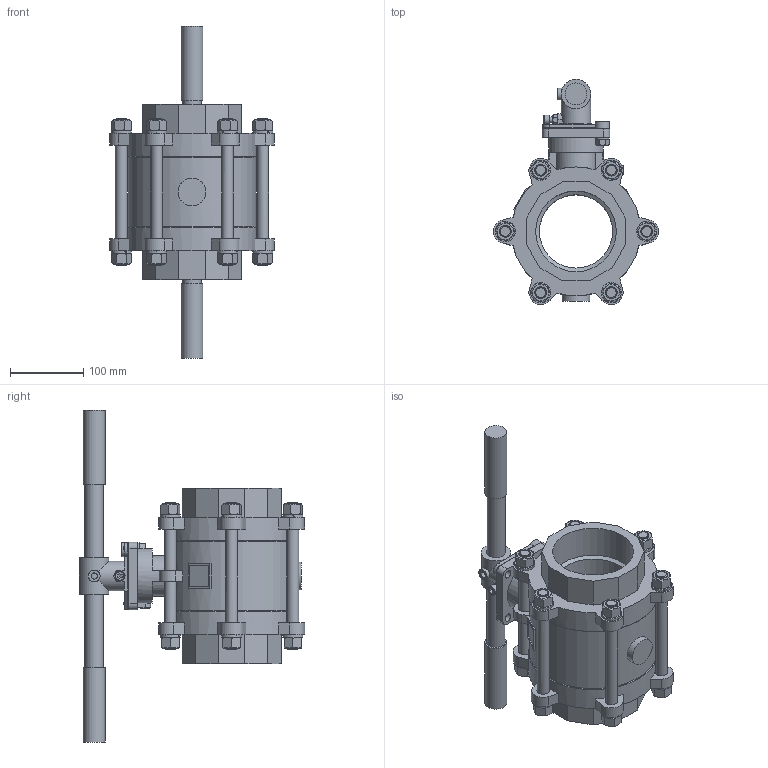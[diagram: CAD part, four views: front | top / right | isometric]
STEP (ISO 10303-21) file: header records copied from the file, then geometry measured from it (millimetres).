
FILE_DESCRIPTION(/* description */ ('Eriks item no: 13278903'),/* implementation_level */ '2;1');
FILE_NAME(/* name */ 'L:\DATA\ENG\Inventor\Econ 3D modellen\kogelkranen\7442\Rubens Versie\7442-DN100-FB.stp',/* time_stamp */ '2023-06-08T08:27:39+02:00',/* author */ ('roger.thijssen'),/* organization */ (''),/* preprocessor_version */ 'ST-DEVELOPER v18',/* originating_system */ 'Autodesk Inventor 2020',/* authorisation */ '');
FILE_SCHEMA (('CONFIG_CONTROL_DESIGN'));
Length unit declared in the file: millimetre
Products named in the file (1): Ball valve, 7442 - 4" - FB, (TF4103)
Bounding box: 224.88 x 307.01 x 453 mm (x, y, z)
Volume: 3997282.9 mm3; surface area: 437878.4 mm2
Topology: 1 solids, 1 shells, 722 faces, 2012 edges, 1307 vertices
Faces by surface type: plane 465, cylinder 156, cone 68, bspline 30, torus 3
Full cylindrical faces by diameter (mm): 4.917 x1, 8 x2, 8.376 x1, 10 x2, 11 x5, 12 x2, 13 x1, 16 x19, 17 x14, 19.2 x1, 25.4 x2, 30 x2, 38 x1, 40 x2, 60 x1, 70 x1, 75 x1, 100 x1, 110.072 x2, 174 x1, 176 x2
Entity records: 23777 total; most frequent: CARTESIAN_POINT 5421, ORIENTED_EDGE 4020, DIRECTION 3713, EDGE_CURVE 2010, AXIS2_PLACEMENT_3D 1313, VERTEX_POINT 1307, LINE 1087, VECTOR 1087
